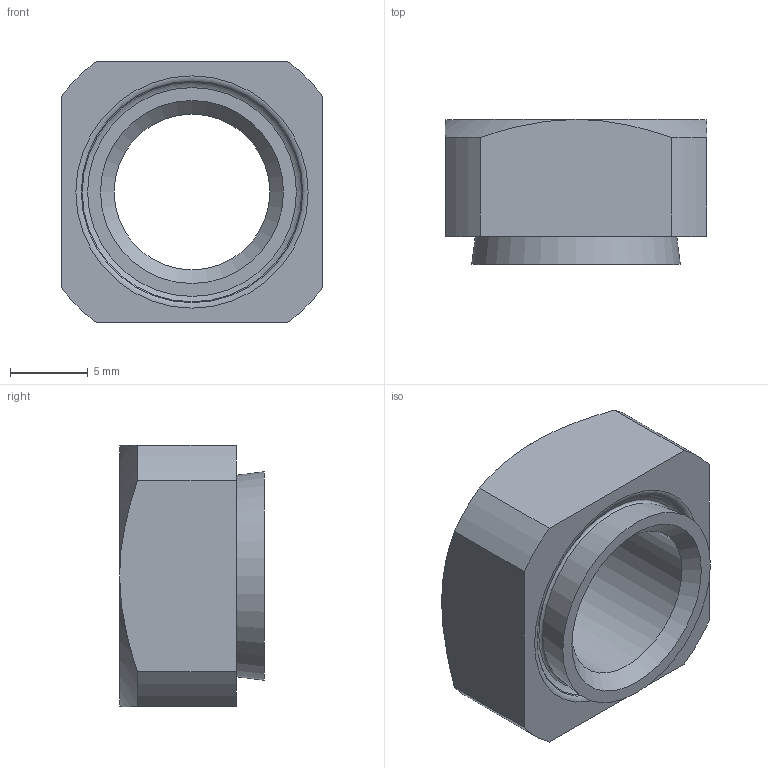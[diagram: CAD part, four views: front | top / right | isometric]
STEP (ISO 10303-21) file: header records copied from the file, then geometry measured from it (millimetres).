
FILE_DESCRIPTION(/* description */ (''),/* implementation_level */ '2;1');
FILE_NAME(/* name */ 'D:\Sukhmani\Fastit\HN Nut\HN 10-2.3.stp',/* time_stamp */ '2024-03-14T12:22:49+06:00',/* author */ ('edc.sukhmani'),/* organization */ (''),/* preprocessor_version */ 'ST-DEVELOPER v18.1',/* originating_system */ 'Autodesk Inventor 2022',/* authorisation */ '');
FILE_SCHEMA (('AUTOMOTIVE_DESIGN { 1 0 10303 214 3 1 1 }'));
Length unit declared in the file: millimetre
Products named in the file (1): HN 10-2.3
Bounding box: 16.8 x 9.3 x 16.8 mm (x, y, z)
Volume: 1493.2 mm3; surface area: 1199.3 mm2
Topology: 1 solids, 1 shells, 24 faces, 58 edges, 37 vertices
Faces by surface type: cone 8, plane 7, cylinder 6, torus 3
Full cylindrical faces by diameter (mm): 10 x1, 11.75 x1
Entity records: 753 total; most frequent: CARTESIAN_POINT 136, DIRECTION 132, ORIENTED_EDGE 116, EDGE_CURVE 58, AXIS2_PLACEMENT_3D 57, VERTEX_POINT 37, CIRCLE 32, EDGE_LOOP 27
